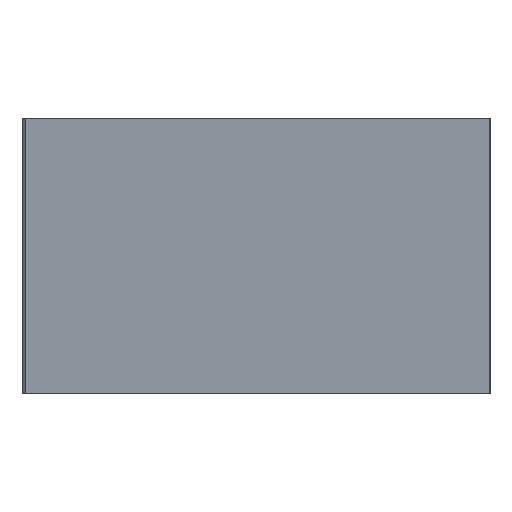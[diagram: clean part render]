
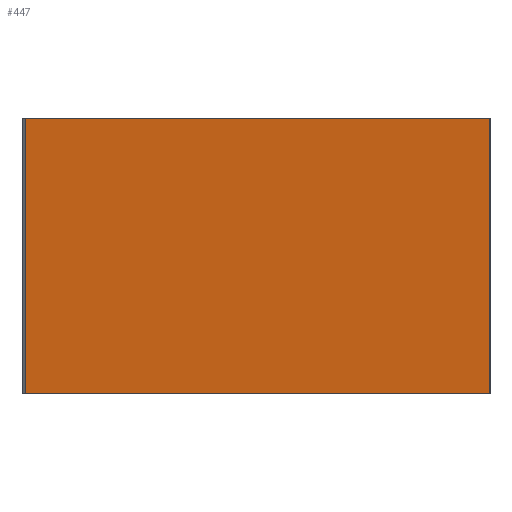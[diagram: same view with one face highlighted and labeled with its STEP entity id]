
A CAD part, front view. The second image highlights one B-rep face of the part: STEP entity #447.
In plain terms, the highlighted planar face has unit normal (-0.174, -0.985, 0).
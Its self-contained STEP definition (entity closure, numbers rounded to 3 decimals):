
#43=FACE_OUTER_BOUND('',#70,.T.);
#70=EDGE_LOOP('',(#371,#372,#373,#374));
#94=LINE('',#652,#150);
#107=LINE('',#678,#163);
#125=LINE('',#714,#181);
#126=LINE('',#716,#182);
#150=VECTOR('',#537,10.);
#163=VECTOR('',#552,10.);
#181=VECTOR('',#586,10.);
#182=VECTOR('',#589,10.);
#201=VERTEX_POINT('',#645);
#204=VERTEX_POINT('',#650);
#216=VERTEX_POINT('',#676);
#226=VERTEX_POINT('',#712);
#250=EDGE_CURVE('',#204,#201,#94,.T.);
#263=EDGE_CURVE('',#216,#204,#107,.T.);
#281=EDGE_CURVE('',#216,#226,#125,.T.);
#282=EDGE_CURVE('',#201,#226,#126,.T.);
#371=ORIENTED_EDGE('',*,*,#281,.T.);
#372=ORIENTED_EDGE('',*,*,#282,.F.);
#373=ORIENTED_EDGE('',*,*,#250,.F.);
#374=ORIENTED_EDGE('',*,*,#263,.F.);
#424=PLANE('',#488);
#447=ADVANCED_FACE('',(#43),#424,.T.);
#488=AXIS2_PLACEMENT_3D('',#715,#587,#588);
#537=DIRECTION('',(0.,0.,1.));
#552=DIRECTION('',(-0.985,0.174,0.));
#586=DIRECTION('',(0.,0.,1.));
#587=DIRECTION('center_axis',(-0.174,-0.985,0.));
#588=DIRECTION('ref_axis',(0.985,-0.174,0.));
#589=DIRECTION('',(0.985,-0.174,0.));
#645=CARTESIAN_POINT('',(-49.588,-10.287,15.));
#650=CARTESIAN_POINT('',(-49.588,-10.287,-15.));
#652=CARTESIAN_POINT('',(-49.588,-10.287,0.));
#676=CARTESIAN_POINT('',(1.,-19.207,-15.));
#678=CARTESIAN_POINT('',(-49.588,-10.287,-15.));
#712=CARTESIAN_POINT('',(1.,-19.207,15.));
#714=CARTESIAN_POINT('',(1.,-19.207,0.));
#715=CARTESIAN_POINT('Origin',(-49.588,-10.287,0.));
#716=CARTESIAN_POINT('',(-49.588,-10.287,15.));
